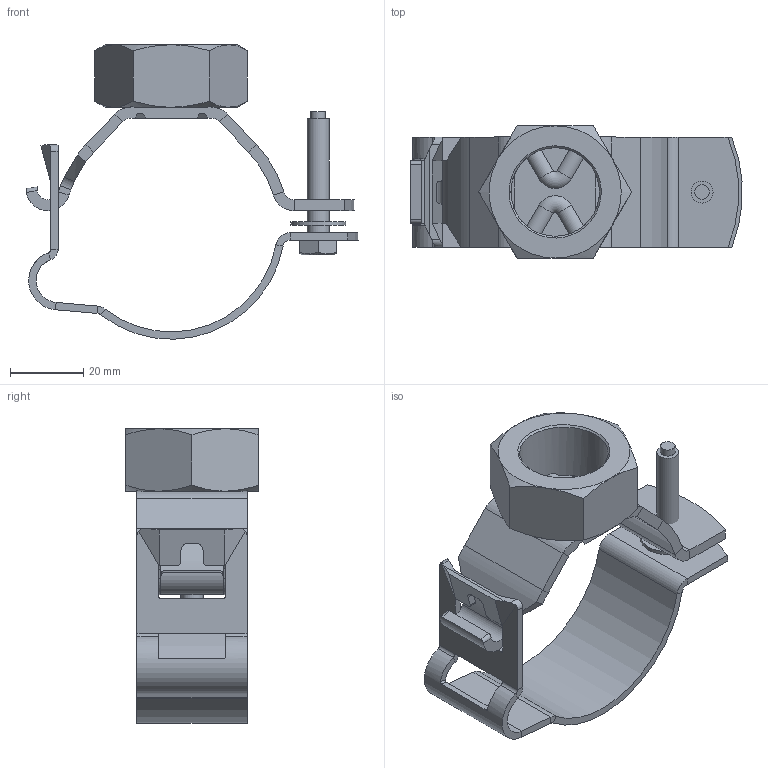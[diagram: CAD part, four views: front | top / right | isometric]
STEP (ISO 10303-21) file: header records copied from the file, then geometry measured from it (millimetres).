
FILE_DESCRIPTION(/* description */ (''),/* implementation_level */ '2;1');
FILE_NAME(/* name */ '361842.stp',/* time_stamp */ '2025-02-20T15:16:20+01:00',/* author */ ('JANAN'),/* organization */ (''),/* preprocessor_version */ 'ST-DEVELOPER v19.2',/* originating_system */ 'Autodesk Inventor 2023',/* authorisation */ '');
FILE_SCHEMA (('AUTOMOTIVE_DESIGN { 1 0 10303 214 3 1 1 }'));
Length unit declared in the file: millimetre
Products named in the file (1): tmp7323.tmp
Bounding box: 90.42 x 36 x 80.19 mm (x, y, z)
Volume: 30047.3 mm3; surface area: 21823.7 mm2
Topology: 4 solids, 4 shells, 241 faces, 613 edges, 375 vertices
Faces by surface type: plane 147, cylinder 61, cone 23, bspline 8, torus 2
Full cylindrical faces by diameter (mm): 4 x1, 4.917 x1, 6 x1, 15 x1, 24.117 x1
Entity records: 8338 total; most frequent: CARTESIAN_POINT 2300, ORIENTED_EDGE 1226, DIRECTION 1172, EDGE_CURVE 613, AXIS2_PLACEMENT_3D 406, VERTEX_POINT 375, LINE 360, VECTOR 360
